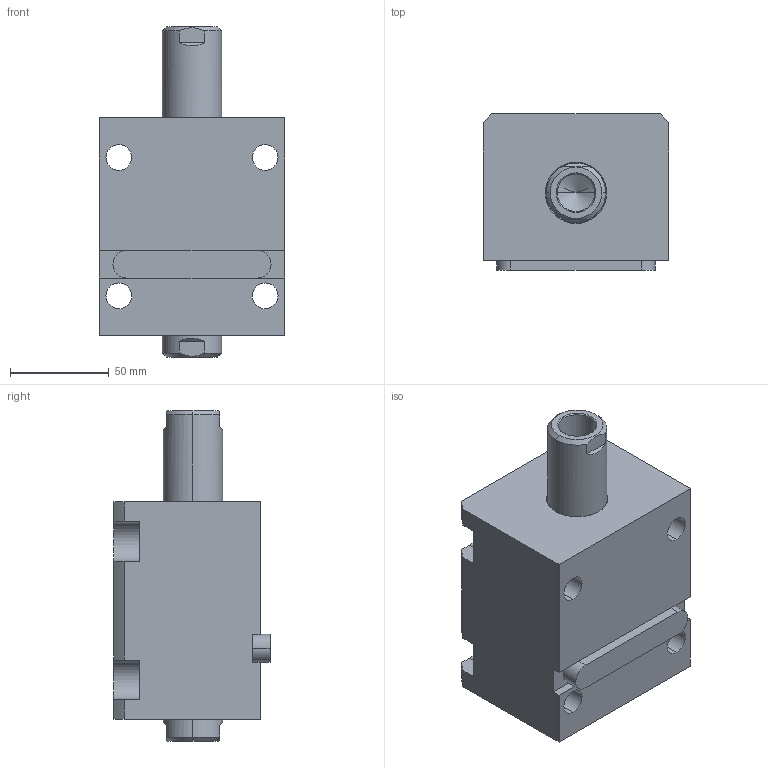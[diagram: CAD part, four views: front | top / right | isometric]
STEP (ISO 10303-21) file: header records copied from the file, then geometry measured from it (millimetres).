
FILE_DESCRIPTION (( 'STEP AP203' ), '1' );
FILE_NAME ('CHTB-LW50-35N.STEP', '2018-05-18T02:38:32', ( '' ), ( '' ), 'SwSTEP 2.0', 'SolidWorks 2015', '' );
FILE_SCHEMA (( 'CONFIG_CONTROL_DESIGN' ));
Length unit declared in the file: millimetre
Products named in the file (4): CHTM-SDMA50QG; 活塞杆LW50-35N; 掛极LW50-35N; CHTB-LW50-35N
Assembly tree (3 placements, depth 2):
  CHTB-LW50-35N
    掛极LW50-35N
    活塞杆LW50-35N
    CHTM-SDMA50QG
Bounding box: 94 x 79 x 167 mm (x, y, z)
Volume: 688556 mm3; surface area: 117828.1 mm2
Topology: 3 solids, 3 shells, 221 faces, 588 edges, 385 vertices
Faces by surface type: cylinder 102, plane 58, cone 31, torus 16, bspline 14
Entity records: 11831 total; most frequent: CARTESIAN_POINT 6126, ORIENTED_EDGE 1160, DIRECTION 1056, EDGE_CURVE 580, AXIS2_PLACEMENT_3D 416, VERTEX_POINT 385, EDGE_LOOP 257, LINE 224
